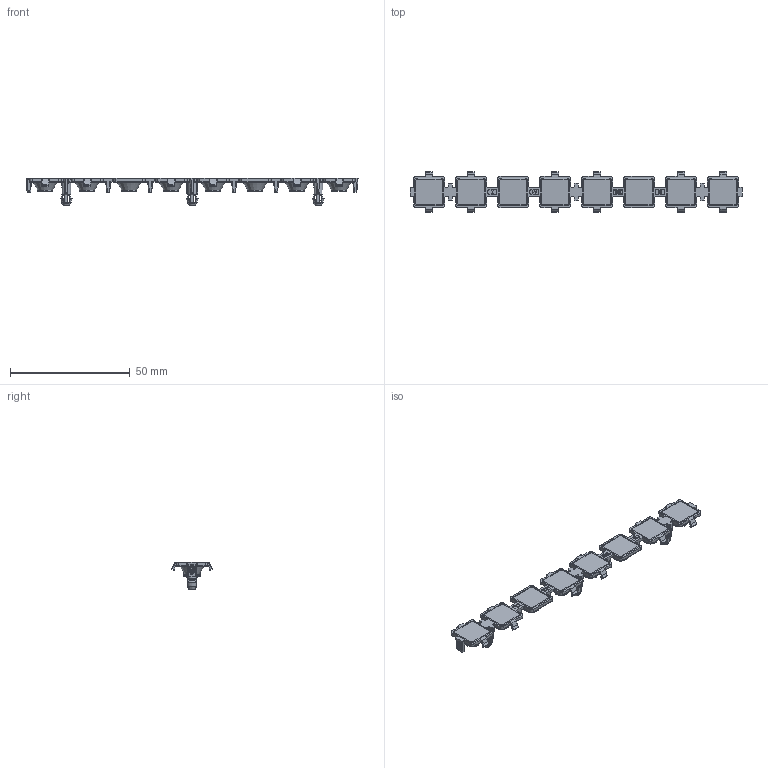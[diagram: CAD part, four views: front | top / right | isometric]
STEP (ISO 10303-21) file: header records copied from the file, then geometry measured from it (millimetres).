
FILE_DESCRIPTION(/* description */ ('Unknown'),/* implementation_level */ '2;1');
FILE_NAME(/* name */ '025-000-0D',/* time_stamp */ '2025-05-07T20:11:44+02:00',/* author */ ('Unknown'),/* organization */ ('Unknown'),/* preprocessor_version */ 'ST-DEVELOPER v16.7',/* originating_system */ 'Solid Edge',/* authorisation */ 'Unknown');
FILE_SCHEMA (('AUTOMOTIVE_DESIGN {1 0 10303 214 3 1 1}'));
Length unit declared in the file: millimetre
Products named in the file (1): 025-000-0D
Bounding box: 138.4 x 17.01 x 11.6 mm (x, y, z)
Volume: 4363.7 mm3; surface area: 5383.7 mm2
Topology: 1 solids, 1 shells, 1242 faces, 3314 edges, 2079 vertices
Faces by surface type: plane 445, cylinder 404, bspline 136, cone 130, torus 91, sphere 36
Full cylindrical faces by diameter (mm): 6.1 x8
Entity records: 52200 total; most frequent: CARTESIAN_POINT 13261, ORIENTED_EDGE 6396, DIRECTION 6114, VERTEX_POINT 5086, FACE_BOUND 4370, EDGE_CURVE 3198, VERTEX_LOOP 3040, AXIS2_PLACEMENT_3D 2313
